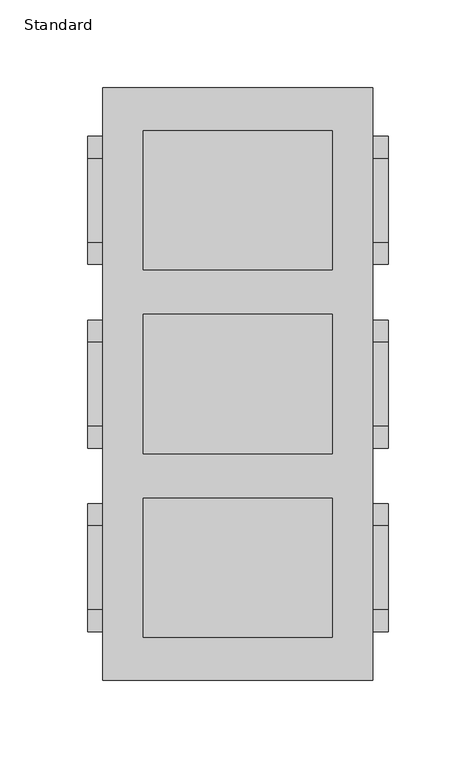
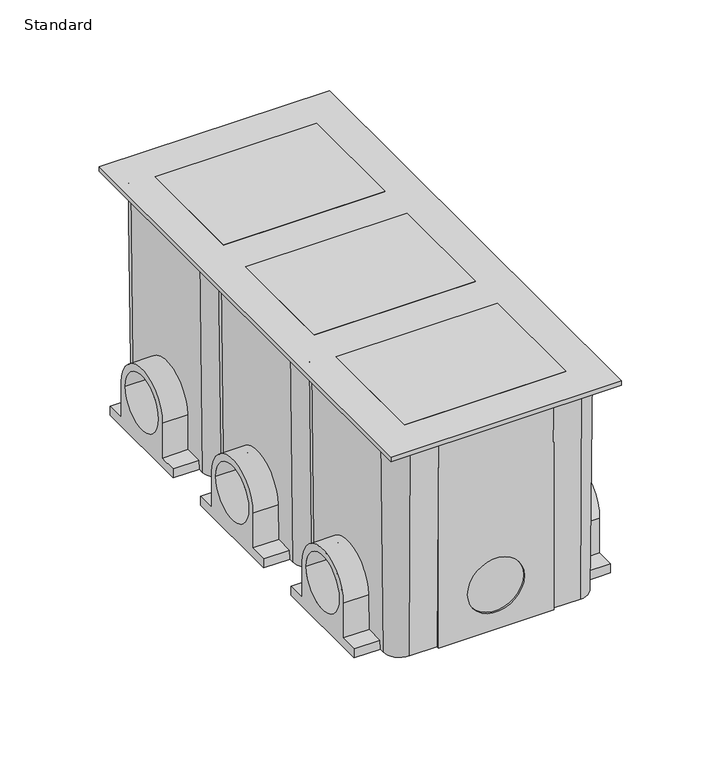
"""IFC4 building model written with IfcOpenShell, lengths in millimetres: proxy geometry, Floor_Box-Modulink-Wiremold-880_Nonmetallic-3_Gang : Standard."""

from ifc_helpers import new_model, si_unit, frame, origin, place, context, project, spatial, polyline, circle_curve, ellipse_curve, outline, extrude, source, transform, mapped, element, save
from ifc_brep_helpers import plane_surface, cylinder_surface, revolved_surface, advanced_brep


def standard_ebe740a5(model_context):
    return source(origin(), model_context, "Body", "SolidModel", [
        extrude(outline(polyline([(53.975, 144.4879), (53.975, 65.1129), (-53.975, 65.1129), (-53.975, 144.4879), (53.975, 144.4879)])), frame((0.0, 0.0, -12.7), z_axis=(0.0, 0.0, 1.0), x_axis=(1.0, 0.0, 0.0)), (0.0, 0.0, 1.0), 12.7),
        extrude(outline(polyline([(53.975, 39.6875), (53.975, -39.6875), (-53.975, -39.6875), (-53.975, 39.6875), (53.975, 39.6875)])), frame((0.0, 0.0, -12.7), z_axis=(0.0, 0.0, 1.0), x_axis=(1.0, 0.0, 0.0)), (0.0, 0.0, 1.0), 12.7),
        extrude(outline(polyline([(53.975, -65.1129), (53.975, -144.4879), (-53.975, -144.4879), (-53.975, -65.1129), (53.975, -65.1129)])), frame((0.0, 0.0, -12.7), z_axis=(0.0, 0.0, 1.0), x_axis=(1.0, 0.0, 0.0)), (0.0, 0.0, 1.0), 12.7),
        extrude(outline(polyline([(-77.0001, 169.0751), (77.0001, 169.0751), (77.0001, -169.0751), (-77.0001, -169.0751), (-77.0001, 169.0751)]), holes=[polyline([(-53.975, 39.6875), (-53.975, -39.6875), (53.975, -39.6875), (53.975, 39.6875), (-53.975, 39.6875)]), polyline([(-53.975, 144.4879), (-53.975, 65.1129), (53.975, 65.1129), (53.975, 144.4879), (-53.975, 144.4879)]), polyline([(-53.975, -65.1129), (-53.975, -144.4879), (53.975, -144.4879), (53.975, -65.1129), (-53.975, -65.1129)])]), frame((0.0, 0.0, -3.175), z_axis=(0.0, 0.0, 1.0), x_axis=(1.0, 0.0, 0.0)), (0.0, 0.0, 1.0), 3.175),
        advanced_brep(
        [(-57.15, -52.4129, -3.175), (-69.85, -65.1129, -3.175), (-69.85, -144.4879, -3.175), (-57.15, -157.1879, -3.175), (-38.608, -157.1879, -3.175), (38.608, -157.1879, -3.175), (57.15, -157.1879, -3.175), (69.85, -144.4879, -3.175), (69.85, -65.1129, -3.175), (57.15, -52.4129, -3.175), (38.608, -52.4129, -3.175), (-38.608, -52.4129, -3.175), (57.15, -54.0004, -155.575), (68.2625, -65.1129, -155.575), (68.2625, -68.2879, -155.575), (85.725, -68.2879, -155.575), (85.725, -141.3129, -155.575), (68.2625, -141.3129, -155.575), (68.2625, -144.4879, -155.575), (57.15, -155.6004, -155.575), (38.608, -155.6004, -155.575), (38.608, -157.1879, -155.575), (-38.608, -157.1879, -155.575), (-38.608, -155.6004, -155.575), (-57.15, -155.6004, -155.575), (-68.2625, -144.4879, -155.575), (-68.2625, -141.3129, -155.575), (-85.725, -141.3129, -155.575), (-85.725, -68.2879, -155.575), (-68.2625, -68.2879, -155.575), (-68.2625, -65.1129, -155.575), (-57.15, -54.0004, -155.575), (-38.608, -54.0004, -155.575), (-38.608, -52.4129, -155.575), (38.608, -52.4129, -155.575), (38.608, -54.0004, -155.575), (19.05, -53.6778729, -124.6124), (-19.05, -53.6778729, -124.6124), (-68.3286458, -68.2879, -149.225), (-68.3286458, -80.9879, -149.225), (-68.5850271, -80.9879, -124.6124), (-68.5850271, -128.6129, -124.6124), (-68.3286458, -128.6129, -149.225), (-68.3286458, -141.3129, -149.225), (-68.5850271, -123.8504, -124.6124), (-68.5850271, -85.7504, -124.6124), (-19.05, -155.9229271, -124.6124), (19.05, -155.9229271, -124.6124), (68.3286458, -141.3129, -149.225), (68.3286458, -128.6129, -149.225), (68.5850271, -128.6129, -124.6124), (68.5850271, -80.9879, -124.6124), (68.3286458, -80.9879, -149.225), (68.3286458, -68.2879, -149.225), (68.5850271, -85.7504, -124.6124), (68.5850271, -123.8504, -124.6124), (-19.05, -157.1879, -124.6124), (19.05, -157.1879, -124.6124), (-19.05, -52.4129, -124.6124), (19.05, -52.4129, -124.6124), (85.725, -128.6129, -124.6124), (85.725, -128.6129, -149.225), (85.725, -141.3129, -149.225), (85.725, -68.2879, -149.225), (85.725, -80.9879, -149.225), (85.725, -80.9879, -124.6124), (85.725, -123.8504, -124.6124), (85.725, -85.7504, -124.6124), (-85.725, -128.6129, -124.6124), (-85.725, -80.9879, -124.6124), (-85.725, -80.9879, -149.225), (-85.725, -68.2879, -149.225), (-85.725, -141.3129, -149.225), (-85.725, -128.6129, -149.225), (-85.725, -123.8504, -124.6124), (-85.725, -85.7504, -124.6124)],
        [
            (0, 1, circle_curve(frame((-57.15, -65.1129, -3.175), z_axis=(0.0, 0.0, 1.0), x_axis=(0.0, 1.0, 0.0)), 12.7)),
            (1, 2),
            (2, 3, circle_curve(frame((-57.15, -144.4879, -3.175), z_axis=(0.0, 0.0, 1.0), x_axis=(-1.0, 0.0, 0.0)), 12.7)),
            (3, 4),
            (4, 5),
            (5, 6),
            (6, 7, circle_curve(frame((57.15, -144.4879, -3.175), z_axis=(0.0, 0.0, 1.0), x_axis=(0.0, -1.0, 0.0)), 12.7)),
            (7, 8),
            (8, 9, circle_curve(frame((57.15, -65.1129, -3.175), z_axis=(0.0, 0.0, 1.0), x_axis=(1.0, 0.0, 0.0)), 12.7)),
            (9, 10),
            (10, 11),
            (11, 0),
            (12, 13, circle_curve(frame((57.15, -65.1129, -155.575), z_axis=(0.0, 0.0, -1.0), x_axis=(1.0, 0.0, 0.0)), 11.1125)),
            (13, 14),
            (14, 15),
            (15, 16),
            (16, 17),
            (17, 18),
            (18, 19, circle_curve(frame((57.15, -144.4879, -155.575), z_axis=(0.0, 0.0, -1.0), x_axis=(0.0, -1.0, 0.0)), 11.1125)),
            (19, 20),
            (20, 21),
            (21, 22),
            (22, 23),
            (23, 24),
            (24, 25, circle_curve(frame((-57.15, -144.4879, -155.575), z_axis=(0.0, 0.0, -1.0), x_axis=(-1.0, 0.0, 0.0)), 11.1125)),
            (25, 26),
            (26, 27),
            (27, 28),
            (28, 29),
            (29, 30),
            (30, 31, circle_curve(frame((-57.15, -65.1129, -155.575), z_axis=(0.0, 0.0, -1.0), x_axis=(0.0, 1.0, 0.0)), 11.1125)),
            (31, 32),
            (32, 33),
            (33, 34),
            (34, 35),
            (35, 12),
            (31, 0),
            (11, 32),
            (9, 12),
            (35, 10),
            (36, 37, ellipse_curve(frame((0.0, -53.6778729, -124.6124), z_axis=(0.0, 0.9999457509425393, -0.010416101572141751), x_axis=(0.0, 0.010416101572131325, 0.9999457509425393)), 19.0510335, 19.05)),
            (37, 36, ellipse_curve(frame((0.0, -53.6778729, -124.6124), z_axis=(0.0, 0.9999457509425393, -0.010416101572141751), x_axis=(0.0, 0.010416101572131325, 0.9999457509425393)), 19.0510335, 19.05)),
            (1, 30),
            (29, 38),
            (38, 39),
            (39, 40),
            (40, 41, ellipse_curve(frame((-68.5850271, -104.8004, -124.6124), z_axis=(0.9999457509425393, 0.0, 0.010416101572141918), x_axis=(0.010416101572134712, 0.0, -0.9999457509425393)), 23.8137919, 23.8125)),
            (41, 42),
            (42, 43),
            (43, 26),
            (25, 2),
            (44, 45, ellipse_curve(frame((-68.5850271, -104.8004, -124.6124), z_axis=(-0.9999457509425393, 0.0, -0.010416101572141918), x_axis=(-0.010416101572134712, 0.0, 0.9999457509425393)), 19.0510335, 19.05)),
            (45, 44, ellipse_curve(frame((-68.5850271, -104.8004, -124.6124), z_axis=(-0.9999457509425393, 0.0, -0.010416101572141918), x_axis=(-0.010416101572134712, 0.0, 0.9999457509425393)), 19.0510335, 19.05)),
            (19, 6),
            (5, 20),
            (46, 47, ellipse_curve(frame((0.0, -155.9229271, -124.6124), z_axis=(0.0, -0.9999457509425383, -0.010416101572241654), x_axis=(0.0, 0.010416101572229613, -0.9999457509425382)), 19.0510335, 19.05)),
            (47, 46, ellipse_curve(frame((0.0, -155.9229271, -124.6124), z_axis=(0.0, -0.9999457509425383, -0.010416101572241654), x_axis=(0.0, 0.010416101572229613, -0.9999457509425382)), 19.0510335, 19.05)),
            (3, 24),
            (23, 4),
            (7, 18),
            (17, 48),
            (48, 49),
            (49, 50),
            (50, 51, ellipse_curve(frame((68.5850271, -104.8004, -124.6124), z_axis=(-0.9999457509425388, 0.0, 0.010416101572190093), x_axis=(0.010416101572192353, 0.0, 0.9999457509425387)), 23.8137919, 23.8125)),
            (51, 52),
            (52, 53),
            (53, 14),
            (13, 8),
            (54, 55, ellipse_curve(frame((68.5850271, -104.8004, -124.6124), z_axis=(0.9999457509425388, 0.0, -0.010416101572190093), x_axis=(-0.010416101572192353, 0.0, -0.9999457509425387)), 19.0510335, 19.05)),
            (55, 54, ellipse_curve(frame((68.5850271, -104.8004, -124.6124), z_axis=(0.9999457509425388, 0.0, -0.010416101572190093), x_axis=(-0.010416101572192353, 0.0, -0.9999457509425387)), 19.0510335, 19.05)),
            (4, 22),
            (21, 5),
            (56, 57, circle_curve(frame((0.0, -157.1879, -124.6124), z_axis=(0.0, 1.0, 0.0), x_axis=(1.0, 0.0, 0.0)), 19.05)),
            (57, 56, circle_curve(frame((0.0, -157.1879, -124.6124), z_axis=(0.0, 1.0, 0.0), x_axis=(1.0, 0.0, 0.0)), 19.05)),
            (57, 47),
            (46, 56),
            (10, 34),
            (33, 11),
            (58, 59, circle_curve(frame((0.0, -52.4129, -124.6124), z_axis=(0.0, -1.0, 0.0), x_axis=(1.0, 0.0, 0.0)), 19.05)),
            (59, 58, circle_curve(frame((0.0, -52.4129, -124.6124), z_axis=(0.0, -1.0, 0.0), x_axis=(1.0, 0.0, 0.0)), 19.05)),
            (58, 37),
            (36, 59),
            (60, 61),
            (61, 62),
            (62, 16),
            (15, 63),
            (63, 64),
            (64, 65),
            (65, 60, circle_curve(frame((85.725, -104.8004, -124.6124), z_axis=(1.0, 0.0, 0.0), x_axis=(0.0, 1.0, 0.0)), 23.8125)),
            (66, 67, circle_curve(frame((85.725, -104.8004, -124.6124), z_axis=(-1.0, 0.0, 0.0), x_axis=(0.0, 1.0, 0.0)), 19.05)),
            (67, 66, circle_curve(frame((85.725, -104.8004, -124.6124), z_axis=(-1.0, 0.0, 0.0), x_axis=(0.0, 1.0, 0.0)), 19.05)),
            (60, 50),
            (49, 61),
            (48, 62),
            (53, 63),
            (52, 64),
            (51, 65),
            (66, 55),
            (54, 67),
            (68, 69, circle_curve(frame((-85.725, -104.8004, -124.6124), z_axis=(-1.0, 0.0, 0.0), x_axis=(0.0, 1.0, 0.0)), 23.8125)),
            (69, 70),
            (70, 71),
            (71, 28),
            (27, 72),
            (72, 73),
            (73, 68),
            (74, 75, circle_curve(frame((-85.725, -104.8004, -124.6124), z_axis=(1.0, 0.0, 0.0), x_axis=(0.0, 1.0, 0.0)), 19.05)),
            (75, 74, circle_curve(frame((-85.725, -104.8004, -124.6124), z_axis=(1.0, 0.0, 0.0), x_axis=(0.0, 1.0, 0.0)), 19.05)),
            (73, 42),
            (41, 68),
            (72, 43),
            (71, 38),
            (70, 39),
            (69, 40),
            (75, 45),
            (44, 74),
        ],
        [
            plane_surface(frame((0.0, -104.8004, -3.175), z_axis=(0.0, 0.0, 1.0), x_axis=(-1.0, 0.0, 0.0))),
            plane_surface(frame((0.0, -104.8004, -155.575), z_axis=(0.0, 0.0, -1.0), x_axis=(-1.0, 0.0, 0.0))),
            plane_surface(frame((0.0, -54.0004, -155.575), z_axis=(0.0, 0.9999457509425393, -0.010416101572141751), x_axis=(-1.0, 0.0, 0.0))),
            plane_surface(frame((-68.2625, -104.8004, -155.575), z_axis=(-0.9999457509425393, 0.0, -0.010416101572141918), x_axis=(0.0, -1.0, 0.0))),
            plane_surface(frame((0.0, -155.6004, -155.575), z_axis=(0.0, -0.9999457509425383, -0.010416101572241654), x_axis=(1.0, 0.0, 0.0))),
            plane_surface(frame((68.2625, -104.8004, -155.575), z_axis=(0.9999457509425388, 0.0, -0.010416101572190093), x_axis=(0.0, 1.0, 0.0))),
            revolved_surface(polyline([(-68.26249999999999, -65.1129, -155.57500000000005), (-69.85, -65.1129, -3.1749999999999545)]), (-57.15, -65.1129, -1222.375), (0.0, 0.0, 1.0)),
            revolved_surface(polyline([(-57.15, -155.6004, -155.57500000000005), (-57.15, -157.1879, -3.1749999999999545)]), (-57.15, -144.4879, -1222.375), (0.0, 0.0, 1.0)),
            revolved_surface(polyline([(68.26249999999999, -144.4879, -155.57500000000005), (69.85, -144.4879, -3.1749999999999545)]), (57.15, -144.4879, -1222.375), (0.0, 0.0, 1.0)),
            revolved_surface(polyline([(57.15, -54.0004, -155.57500000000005), (57.15, -52.4129, -3.1749999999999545)]), (57.15, -65.1129, -1222.375), (0.0, 0.0, 1.0)),
            plane_surface(frame((19.05, -157.1879, -124.6124), z_axis=(0.0, -1.0, 0.0), x_axis=(0.0, 0.0, -1.0))),
            revolved_surface(polyline([(19.05, -155.72448960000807, -124.6124), (19.05, -157.1879, -124.6124)]), (0.0, -155.6004, -124.6124), (0.0, 1.0, 0.0)),
            plane_surface(frame((-38.608, -157.1879, -3.175), z_axis=(-1.0, 0.0, 0.0), x_axis=(0.0, 1.0, 0.0))),
            plane_surface(frame((38.608, -157.1879, -155.575), z_axis=(1.0, 0.0, 0.0), x_axis=(0.0, 1.0, 0.0))),
            plane_surface(frame((19.05, -52.4129, -124.6124), z_axis=(0.0, 1.0, 0.0), x_axis=(0.0, 0.0, 1.0))),
            revolved_surface(polyline([(19.05, -52.4129, -124.6124), (19.05, -53.876310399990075, -124.6124)]), (0.0, -52.4129, -124.6124), (0.0, 1.0, 0.0)),
            plane_surface(frame((-38.608, -54.0004, -3.175), z_axis=(-1.0, 0.0, 0.0), x_axis=(0.0, 1.0, 0.0))),
            plane_surface(frame((38.608, -54.0004, -155.575), z_axis=(1.0, 0.0, 0.0), x_axis=(0.0, 1.0, 0.0))),
            plane_surface(frame((85.725, -128.6129, -149.225), z_axis=(1.0, 0.0, 0.0), x_axis=(0.0, 1.0449157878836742e-12, -1.0))),
            plane_surface(frame((85.725, -128.6129, -124.6124), z_axis=(0.0, -1.0, -1.0449157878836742e-12), x_axis=(-1.0, 0.0, 0.0))),
            plane_surface(frame((85.725, -128.6129, -149.225), z_axis=(0.0, 0.0, 1.0), x_axis=(-1.0, 0.0, 0.0))),
            plane_surface(frame((85.725, -141.3129, -149.225), z_axis=(0.0, -1.0, 0.0), x_axis=(-1.0, 0.0, 0.0))),
            plane_surface(frame((85.725, -68.2879, -155.575), z_axis=(0.0, 1.0, 0.0), x_axis=(-1.0, 0.0, 0.0))),
            plane_surface(frame((85.725, -68.2879, -149.225), z_axis=(0.0, 0.0, 1.0), x_axis=(-1.0, 0.0, 0.0))),
            plane_surface(frame((85.725, -80.9879, -149.225), z_axis=(0.0, 1.0, 0.0), x_axis=(-1.0, 0.0, 0.0))),
            cylinder_surface(frame((57.15, -104.8004, -124.6124), z_axis=(1.0, 0.0, 0.0), x_axis=(0.0, 1.0, 0.0)), 23.8125),
            revolved_surface(polyline([(68.38658960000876, -85.7504, -124.6124), (85.725, -85.7504, -124.6124)]), (0.0, -104.8004, -124.6124), (-1.0, 0.0, 0.0)),
            plane_surface(frame((-85.725, -128.6129, -149.225), z_axis=(-1.0, 0.0, 0.0), x_axis=(0.0, -1.0449157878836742e-12, 1.0))),
            plane_surface(frame((-57.15, -128.6129, -124.6124), z_axis=(0.0, -1.0, -1.0449157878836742e-12), x_axis=(-1.0, 0.0, 0.0))),
            plane_surface(frame((-57.15, -128.6129, -149.225), z_axis=(0.0, 0.0, 1.0), x_axis=(-1.0, 0.0, 0.0))),
            plane_surface(frame((-57.15, -141.3129, -149.225), z_axis=(0.0, -1.0, 0.0), x_axis=(-1.0, 0.0, 0.0))),
            plane_surface(frame((-57.15, -68.2879, -155.575), z_axis=(0.0, 1.0, 0.0), x_axis=(-1.0, 0.0, 0.0))),
            plane_surface(frame((-57.15, -68.2879, -149.225), z_axis=(0.0, 0.0, 1.0), x_axis=(-1.0, 0.0, 0.0))),
            plane_surface(frame((-57.15, -80.9879, -149.225), z_axis=(0.0, 1.0, 0.0), x_axis=(-1.0, 0.0, 0.0))),
            cylinder_surface(frame((-85.725, -104.8004, -124.6124), z_axis=(1.0, 0.0, 0.0), x_axis=(0.0, 1.0, 0.0)), 23.8125),
            revolved_surface(polyline([(-85.725, -85.7504, -124.6124), (-68.38658960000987, -85.7504, -124.6124)]), (0.0, -104.8004, -124.6124), (-1.0, 0.0, 0.0)),
        ],
        [
            (0, [[1, 2, 3, 4, 5, 6, 7, 8, 9, 10, 11, 12]]),
            (1, [[13, 14, 15, 16, 17, 18, 19, 20, 21, 22, 23, 24, 25, 26, 27, 28, 29, 30, 31, 32, 33, 34, 35, 36]]),
            (2, [[37, -12, 38, -32]]),
            (2, [[39, -36, 40, -10]]),
            (2, [[41, 42]]),
            (3, [[-2, 43, -30, 44, 45, 46, 47, 48, 49, 50, -26, 51]]),
            (3, [[52, 53]]),
            (4, [[54, -6, 55, -20]]),
            (4, [[56, 57]]),
            (4, [[58, -24, 59, -4]]),
            (5, [[-8, 60, -18, 61, 62, 63, 64, 65, 66, 67, -14, 68]]),
            (5, [[69, 70]]),
            (6, [[-1, -37, -31, -43]]),
            (7, [[-3, -51, -25, -58]]),
            (8, [[-7, -54, -19, -60]]),
            (9, [[-9, -68, -13, -39]]),
            (10, [[71, -22, 72, -5], [73, 74]]),
            (11, [[-74, 75, -56, 76]]),
            (11, [[-73, -76, -57, -75]]),
            (12, [[-71, -59, -23]]),
            (13, [[-72, -21, -55]]),
            (14, [[77, -34, 78, -11], [79, 80]]),
            (15, [[-79, 81, -41, 82]]),
            (15, [[-80, -82, -42, -81]]),
            (16, [[-78, -33, -38]]),
            (17, [[-77, -40, -35]]),
            (18, [[83, 84, 85, -16, 86, 87, 88, 89], [90, 91]]),
            (19, [[-83, 92, -63, 93]]),
            (20, [[-84, -93, -62, 94]]),
            (21, [[-85, -94, -61, -17]]),
            (22, [[-86, -15, -67, 95]]),
            (23, [[-87, -95, -66, 96]]),
            (24, [[-88, -96, -65, 97]]),
            (25, [[-89, -97, -64, -92]]),
            (26, [[-90, 98, -69, 99]]),
            (26, [[-91, -99, -70, -98]]),
            (27, [[100, 101, 102, 103, -28, 104, 105, 106], [107, 108]]),
            (28, [[-106, 109, -48, 110]]),
            (29, [[-105, 111, -49, -109]]),
            (30, [[-104, -27, -50, -111]]),
            (31, [[-103, 112, -44, -29]]),
            (32, [[-102, 113, -45, -112]]),
            (33, [[-101, 114, -46, -113]]),
            (34, [[-100, -110, -47, -114]]),
            (35, [[-108, 115, -52, 116]]),
            (35, [[-107, -116, -53, -115]]),
        ],
    ),
        advanced_brep(
        [(-57.15, 52.3875, -3.175), (-69.85, 39.6875, -3.175), (-69.85, -39.6875, -3.175), (-57.15, -52.3875, -3.175), (-38.608, -52.3875, -3.175), (38.608, -52.3875, -3.175), (57.15, -52.3875, -3.175), (69.85, -39.6875, -3.175), (69.85, 39.6875, -3.175), (57.15, 52.3875, -3.175), (38.608, 52.3875, -3.175), (-38.608, 52.3875, -3.175), (57.15, 50.8, -155.575), (68.2625, 39.6875, -155.575), (68.2625, 36.5125, -155.575), (85.725, 36.5125, -155.575), (85.725, -36.5125, -155.575), (68.2625, -36.5125, -155.575), (68.2625, -39.6875, -155.575), (57.15, -50.8, -155.575), (38.608, -50.8, -155.575), (38.608, -52.3875, -155.575), (-38.608, -52.3875, -155.575), (-38.608, -50.8, -155.575), (-57.15, -50.8, -155.575), (-68.2625, -39.6875, -155.575), (-68.2625, -36.5125, -155.575), (-85.725, -36.5125, -155.575), (-85.725, 36.5125, -155.575), (-68.2625, 36.5125, -155.575), (-68.2625, 39.6875, -155.575), (-57.15, 50.8, -155.575), (-38.608, 50.8, -155.575), (-38.608, 52.3875, -155.575), (38.608, 52.3875, -155.575), (38.608, 50.8, -155.575), (19.05, 51.1225271, -124.6124), (-19.05, 51.1225271, -124.6124), (-68.3286458, 36.5125, -149.225), (-68.3286458, 23.8125, -149.225), (-68.5850271, 23.8125, -124.6124), (-68.5850271, -23.8125, -124.6124), (-68.3286458, -23.8125, -149.225), (-68.3286458, -36.5125, -149.225), (-68.5850271, -19.05, -124.6124), (-68.5850271, 19.05, -124.6124), (-19.05, -51.1225271, -124.6124), (19.05, -51.1225271, -124.6124), (68.3286458, -36.5125, -149.225), (68.3286458, -23.8125, -149.225), (68.5850271, -23.8125, -124.6124), (68.5850271, 23.8125, -124.6124), (68.3286458, 23.8125, -149.225), (68.3286458, 36.5125, -149.225), (68.5850271, 19.05, -124.6124), (68.5850271, -19.05, -124.6124), (-85.725, -23.8125, -124.6124), (-85.725, 23.8125, -124.6124), (-85.725, 23.8125, -149.225), (-85.725, 36.5125, -149.225), (-85.725, -36.5125, -149.225), (-85.725, -23.8125, -149.225), (-85.725, -19.05, -124.6124), (-85.725, 19.05, -124.6124), (85.725, -23.8125, -124.6124), (85.725, -23.8125, -149.225), (85.725, -36.5125, -149.225), (85.725, 36.5125, -149.225), (85.725, 23.8125, -149.225), (85.725, 23.8125, -124.6124), (85.725, -19.05, -124.6124), (85.725, 19.05, -124.6124), (-19.05, -52.3875, -124.6124), (19.05, -52.3875, -124.6124), (-19.05, 52.3875, -124.6124), (19.05, 52.3875, -124.6124)],
        [
            (0, 1, circle_curve(frame((-57.15, 39.6875, -3.175), z_axis=(0.0, 0.0, 1.0), x_axis=(0.0, 1.0, 0.0)), 12.7)),
            (1, 2),
            (2, 3, circle_curve(frame((-57.15, -39.6875, -3.175), z_axis=(0.0, 0.0, 1.0), x_axis=(-1.0, 0.0, 0.0)), 12.7)),
            (3, 4),
            (4, 5),
            (5, 6),
            (6, 7, circle_curve(frame((57.15, -39.6875, -3.175), z_axis=(0.0, 0.0, 1.0), x_axis=(0.0, -1.0, 0.0)), 12.7)),
            (7, 8),
            (8, 9, circle_curve(frame((57.15, 39.6875, -3.175), z_axis=(0.0, 0.0, 1.0), x_axis=(1.0, 0.0, 0.0)), 12.7)),
            (9, 10),
            (10, 11),
            (11, 0),
            (12, 13, circle_curve(frame((57.15, 39.6875, -155.575), z_axis=(0.0, 0.0, -1.0), x_axis=(1.0, 0.0, 0.0)), 11.1125)),
            (13, 14),
            (14, 15),
            (15, 16),
            (16, 17),
            (17, 18),
            (18, 19, circle_curve(frame((57.15, -39.6875, -155.575), z_axis=(0.0, 0.0, -1.0), x_axis=(0.0, -1.0, 0.0)), 11.1125)),
            (19, 20),
            (20, 21),
            (21, 22),
            (22, 23),
            (23, 24),
            (24, 25, circle_curve(frame((-57.15, -39.6875, -155.575), z_axis=(0.0, 0.0, -1.0), x_axis=(-1.0, 0.0, 0.0)), 11.1125)),
            (25, 26),
            (26, 27),
            (27, 28),
            (28, 29),
            (29, 30),
            (30, 31, circle_curve(frame((-57.15, 39.6875, -155.575), z_axis=(0.0, 0.0, -1.0), x_axis=(0.0, 1.0, 0.0)), 11.1125)),
            (31, 32),
            (32, 33),
            (33, 34),
            (34, 35),
            (35, 12),
            (31, 0),
            (11, 32),
            (9, 12),
            (35, 10),
            (36, 37, ellipse_curve(frame((0.0, 51.1225271, -124.6124), z_axis=(0.0, 0.9999457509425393, -0.010416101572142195), x_axis=(0.0, 0.010416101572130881, 0.9999457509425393)), 19.0510335, 19.05)),
            (37, 36, ellipse_curve(frame((0.0, 51.1225271, -124.6124), z_axis=(0.0, 0.9999457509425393, -0.010416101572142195), x_axis=(0.0, 0.010416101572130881, 0.9999457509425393)), 19.0510335, 19.05)),
            (1, 30),
            (29, 38),
            (38, 39),
            (39, 40),
            (40, 41, ellipse_curve(frame((-68.5850271, 0.0, -124.6124), z_axis=(0.9999457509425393, 0.0, 0.010416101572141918), x_axis=(0.010416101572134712, 0.0, -0.9999457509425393)), 23.8137919, 23.8125)),
            (41, 42),
            (42, 43),
            (43, 26),
            (25, 2),
            (44, 45, ellipse_curve(frame((-68.5850271, 0.0, -124.6124), z_axis=(-0.9999457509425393, 0.0, -0.010416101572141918), x_axis=(-0.010416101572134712, 0.0, 0.9999457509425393)), 19.0510335, 19.05)),
            (45, 44, ellipse_curve(frame((-68.5850271, 0.0, -124.6124), z_axis=(-0.9999457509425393, 0.0, -0.010416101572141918), x_axis=(-0.010416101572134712, 0.0, 0.9999457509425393)), 19.0510335, 19.05)),
            (19, 6),
            (5, 20),
            (46, 47, ellipse_curve(frame((0.0, -51.1225271, -124.6124), z_axis=(0.0, -0.9999457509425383, -0.010416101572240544), x_axis=(0.0, 0.010416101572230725, -0.9999457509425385)), 19.0510335, 19.05)),
            (47, 46, ellipse_curve(frame((0.0, -51.1225271, -124.6124), z_axis=(0.0, -0.9999457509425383, -0.010416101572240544), x_axis=(0.0, 0.010416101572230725, -0.9999457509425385)), 19.0510335, 19.05)),
            (3, 24),
            (23, 4),
            (7, 18),
            (17, 48),
            (48, 49),
            (49, 50),
            (50, 51, ellipse_curve(frame((68.5850271, 0.0, -124.6124), z_axis=(-0.9999457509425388, 0.0, 0.010416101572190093), x_axis=(0.010416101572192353, 0.0, 0.9999457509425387)), 23.8137919, 23.8125)),
            (51, 52),
            (52, 53),
            (53, 14),
            (13, 8),
            (54, 55, ellipse_curve(frame((68.5850271, 0.0, -124.6124), z_axis=(0.9999457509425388, 0.0, -0.010416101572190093), x_axis=(-0.010416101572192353, 0.0, -0.9999457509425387)), 19.0510335, 19.05)),
            (55, 54, ellipse_curve(frame((68.5850271, 0.0, -124.6124), z_axis=(0.9999457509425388, 0.0, -0.010416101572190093), x_axis=(-0.010416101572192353, 0.0, -0.9999457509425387)), 19.0510335, 19.05)),
            (56, 57, circle_curve(frame((-85.725, 0.0, -124.6124), z_axis=(-1.0, 0.0, 0.0), x_axis=(0.0, 1.0, 0.0)), 23.8125)),
            (57, 58),
            (58, 59),
            (59, 28),
            (27, 60),
            (60, 61),
            (61, 56),
            (62, 63, circle_curve(frame((-85.725, 0.0, -124.6124), z_axis=(1.0, 0.0, 0.0), x_axis=(0.0, 1.0, 0.0)), 19.05)),
            (63, 62, circle_curve(frame((-85.725, 0.0, -124.6124), z_axis=(1.0, 0.0, 0.0), x_axis=(0.0, 1.0, 0.0)), 19.05)),
            (61, 42),
            (41, 56),
            (60, 43),
            (59, 38),
            (58, 39),
            (57, 40),
            (63, 45),
            (44, 62),
            (64, 65),
            (65, 66),
            (66, 16),
            (15, 67),
            (67, 68),
            (68, 69),
            (69, 64, circle_curve(frame((85.725, 0.0, -124.6124), z_axis=(1.0, 0.0, 0.0), x_axis=(0.0, 1.0, 0.0)), 23.8125)),
            (70, 71, circle_curve(frame((85.725, 0.0, -124.6124), z_axis=(-1.0, 0.0, 0.0), x_axis=(0.0, 1.0, 0.0)), 19.05)),
            (71, 70, circle_curve(frame((85.725, 0.0, -124.6124), z_axis=(-1.0, 0.0, 0.0), x_axis=(0.0, 1.0, 0.0)), 19.05)),
            (64, 50),
            (49, 65),
            (48, 66),
            (53, 67),
            (52, 68),
            (51, 69),
            (70, 55),
            (54, 71),
            (4, 22),
            (21, 5),
            (72, 73, circle_curve(frame((0.0, -52.3875, -124.6124), z_axis=(0.0, 1.0, 0.0), x_axis=(1.0, 0.0, 0.0)), 19.05)),
            (73, 72, circle_curve(frame((0.0, -52.3875, -124.6124), z_axis=(0.0, 1.0, 0.0), x_axis=(1.0, 0.0, 0.0)), 19.05)),
            (73, 47),
            (46, 72),
            (10, 34),
            (33, 11),
            (74, 75, circle_curve(frame((0.0, 52.3875, -124.6124), z_axis=(0.0, -1.0, 0.0), x_axis=(1.0, 0.0, 0.0)), 19.05)),
            (75, 74, circle_curve(frame((0.0, 52.3875, -124.6124), z_axis=(0.0, -1.0, 0.0), x_axis=(1.0, 0.0, 0.0)), 19.05)),
            (74, 37),
            (36, 75),
        ],
        [
            plane_surface(frame((0.0, 0.0, -3.175), z_axis=(0.0, 0.0, 1.0), x_axis=(-1.0, 0.0, 0.0))),
            plane_surface(frame((0.0, 0.0, -155.575), z_axis=(0.0, 0.0, -1.0), x_axis=(-1.0, 0.0, 0.0))),
            plane_surface(frame((0.0, 50.8, -155.575), z_axis=(0.0, 0.9999457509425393, -0.010416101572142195), x_axis=(-1.0, 0.0, 0.0))),
            plane_surface(frame((-68.2625, 0.0, -155.575), z_axis=(-0.9999457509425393, 0.0, -0.010416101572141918), x_axis=(0.0, -1.0, 0.0))),
            plane_surface(frame((0.0, -50.8, -155.575), z_axis=(0.0, -0.9999457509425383, -0.010416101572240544), x_axis=(1.0, 0.0, 0.0))),
            plane_surface(frame((68.2625, 0.0, -155.575), z_axis=(0.9999457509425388, 0.0, -0.010416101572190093), x_axis=(0.0, 1.0, 0.0))),
            revolved_surface(polyline([(-68.26249999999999, 39.6875, -155.57500000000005), (-69.85, 39.6875, -3.1749999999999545)]), (-57.15, 39.6875, -1222.375), (0.0, 0.0, 1.0)),
            revolved_surface(polyline([(-57.15, -50.8, -155.57500000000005), (-57.15, -52.3875, -3.1749999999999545)]), (-57.15, -39.6875, -1222.375), (0.0, 0.0, 1.0)),
            revolved_surface(polyline([(68.26249999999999, -39.6875, -155.57500000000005), (69.85, -39.6875, -3.1749999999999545)]), (57.15, -39.6875, -1222.375), (0.0, 0.0, 1.0)),
            revolved_surface(polyline([(57.15, 50.8, -155.57500000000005), (57.15, 52.3875, -3.1749999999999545)]), (57.15, 39.6875, -1222.375), (0.0, 0.0, 1.0)),
            plane_surface(frame((-85.725, -23.8125, -149.225), z_axis=(-1.0, 0.0, 0.0), x_axis=(0.0, -1.039416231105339e-12, 1.0))),
            plane_surface(frame((-57.15, -23.8125, -124.6124), z_axis=(0.0, -1.0, -1.039416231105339e-12), x_axis=(-1.0, 0.0, 0.0))),
            plane_surface(frame((-57.15, -23.8125, -149.225), z_axis=(0.0, 0.0, 1.0), x_axis=(-1.0, 0.0, 0.0))),
            plane_surface(frame((-57.15, -36.5125, -149.225), z_axis=(0.0, -1.0, 0.0), x_axis=(-1.0, 0.0, 0.0))),
            plane_surface(frame((-57.15, 36.5125, -155.575), z_axis=(0.0, 1.0, 0.0), x_axis=(-1.0, 0.0, 0.0))),
            plane_surface(frame((-57.15, 36.5125, -149.225), z_axis=(0.0, 0.0, 1.0), x_axis=(-1.0, 0.0, 0.0))),
            plane_surface(frame((-57.15, 23.8125, -149.225), z_axis=(0.0, 1.0, 0.0), x_axis=(-1.0, 0.0, 0.0))),
            cylinder_surface(frame((-85.725, 0.0, -124.6124), z_axis=(1.0, 0.0, 0.0), x_axis=(0.0, 1.0, 0.0)), 23.8125),
            revolved_surface(polyline([(-85.725, 19.05, -124.6124), (-68.38658960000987, 19.05, -124.6124)]), (0.0, 0.0, -124.6124), (-1.0, 0.0, 0.0)),
            plane_surface(frame((85.725, -23.8125, -149.225), z_axis=(1.0, 0.0, 0.0), x_axis=(0.0, 1.039416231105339e-12, -1.0))),
            plane_surface(frame((85.725, -23.8125, -124.6124), z_axis=(0.0, -1.0, -1.039416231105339e-12), x_axis=(-1.0, 0.0, 0.0))),
            plane_surface(frame((85.725, -23.8125, -149.225), z_axis=(0.0, 0.0, 1.0), x_axis=(-1.0, 0.0, 0.0))),
            plane_surface(frame((85.725, -36.5125, -149.225), z_axis=(0.0, -1.0, 0.0), x_axis=(-1.0, 0.0, 0.0))),
            plane_surface(frame((85.725, 36.5125, -155.575), z_axis=(0.0, 1.0, 0.0), x_axis=(-1.0, 0.0, 0.0))),
            plane_surface(frame((85.725, 36.5125, -149.225), z_axis=(0.0, 0.0, 1.0), x_axis=(-1.0, 0.0, 0.0))),
            plane_surface(frame((85.725, 23.8125, -149.225), z_axis=(0.0, 1.0, 0.0), x_axis=(-1.0, 0.0, 0.0))),
            cylinder_surface(frame((57.15, 0.0, -124.6124), z_axis=(1.0, 0.0, 0.0), x_axis=(0.0, 1.0, 0.0)), 23.8125),
            revolved_surface(polyline([(68.38658960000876, 19.05, -124.6124), (85.725, 19.05, -124.6124)]), (0.0, 0.0, -124.6124), (-1.0, 0.0, 0.0)),
            plane_surface(frame((19.05, -52.3875, -124.6124), z_axis=(0.0, -1.0, 0.0), x_axis=(0.0, 0.0, -1.0))),
            revolved_surface(polyline([(19.05, -50.92408960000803, -124.6124), (19.05, -52.3875, -124.6124)]), (0.0, -50.8, -124.6124), (0.0, 1.0, 0.0)),
            plane_surface(frame((-38.608, -52.3875, -3.175), z_axis=(-1.0, 0.0, 0.0), x_axis=(0.0, 1.0, 0.0))),
            plane_surface(frame((38.608, -52.3875, -155.575), z_axis=(1.0, 0.0, 0.0), x_axis=(0.0, 1.0, 0.0))),
            plane_surface(frame((19.05, 52.3875, -124.6124), z_axis=(0.0, 1.0, 0.0), x_axis=(0.0, 0.0, 1.0))),
            revolved_surface(polyline([(19.05, 52.3875, -124.6124), (19.05, 50.92408960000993, -124.6124)]), (0.0, 52.3875, -124.6124), (0.0, 1.0, 0.0)),
            plane_surface(frame((-38.608, 50.8, -3.175), z_axis=(-1.0, 0.0, 0.0), x_axis=(0.0, 1.0, 0.0))),
            plane_surface(frame((38.608, 50.8, -155.575), z_axis=(1.0, 0.0, 0.0), x_axis=(0.0, 1.0, 0.0))),
        ],
        [
            (0, [[1, 2, 3, 4, 5, 6, 7, 8, 9, 10, 11, 12]]),
            (1, [[13, 14, 15, 16, 17, 18, 19, 20, 21, 22, 23, 24, 25, 26, 27, 28, 29, 30, 31, 32, 33, 34, 35, 36]]),
            (2, [[37, -12, 38, -32]]),
            (2, [[39, -36, 40, -10]]),
            (2, [[41, 42]]),
            (3, [[-2, 43, -30, 44, 45, 46, 47, 48, 49, 50, -26, 51]]),
            (3, [[52, 53]]),
            (4, [[54, -6, 55, -20]]),
            (4, [[56, 57]]),
            (4, [[58, -24, 59, -4]]),
            (5, [[-8, 60, -18, 61, 62, 63, 64, 65, 66, 67, -14, 68]]),
            (5, [[69, 70]]),
            (6, [[-1, -37, -31, -43]]),
            (7, [[-3, -51, -25, -58]]),
            (8, [[-7, -54, -19, -60]]),
            (9, [[-9, -68, -13, -39]]),
            (10, [[71, 72, 73, 74, -28, 75, 76, 77], [78, 79]]),
            (11, [[-77, 80, -48, 81]]),
            (12, [[-76, 82, -49, -80]]),
            (13, [[-75, -27, -50, -82]]),
            (14, [[-74, 83, -44, -29]]),
            (15, [[-73, 84, -45, -83]]),
            (16, [[-72, 85, -46, -84]]),
            (17, [[-71, -81, -47, -85]]),
            (18, [[-79, 86, -52, 87]]),
            (18, [[-78, -87, -53, -86]]),
            (19, [[88, 89, 90, -16, 91, 92, 93, 94], [95, 96]]),
            (20, [[-88, 97, -63, 98]]),
            (21, [[-89, -98, -62, 99]]),
            (22, [[-90, -99, -61, -17]]),
            (23, [[-91, -15, -67, 100]]),
            (24, [[-92, -100, -66, 101]]),
            (25, [[-93, -101, -65, 102]]),
            (26, [[-94, -102, -64, -97]]),
            (27, [[-95, 103, -69, 104]]),
            (27, [[-96, -104, -70, -103]]),
            (28, [[105, -22, 106, -5], [107, 108]]),
            (29, [[-108, 109, -56, 110]]),
            (29, [[-107, -110, -57, -109]]),
            (30, [[-105, -59, -23]]),
            (31, [[-106, -21, -55]]),
            (32, [[111, -34, 112, -11], [113, 114]]),
            (33, [[-113, 115, -41, 116]]),
            (33, [[-114, -116, -42, -115]]),
            (34, [[-112, -33, -38]]),
            (35, [[-111, -40, -35]]),
        ],
    ),
        advanced_brep(
        [(-57.15, 157.1879, -3.175), (-69.85, 144.4879, -3.175), (-69.85, 65.1129, -3.175), (-57.15, 52.4129, -3.175), (-38.608, 52.4129, -3.175), (38.608, 52.4129, -3.175), (57.15, 52.4129, -3.175), (69.85, 65.1129, -3.175), (69.85, 144.4879, -3.175), (57.15, 157.1879, -3.175), (38.608, 157.1879, -3.175), (-38.608, 157.1879, -3.175), (57.15, 155.6004, -155.575), (68.2625, 144.4879, -155.575), (68.2625, 141.3129, -155.575), (85.725, 141.3129, -155.575), (85.725, 68.2879, -155.575), (68.2625, 68.2879, -155.575), (68.2625, 65.1129, -155.575), (57.15, 54.0004, -155.575), (38.608, 54.0004, -155.575), (38.608, 52.4129, -155.575), (-38.608, 52.4129, -155.575), (-38.608, 54.0004, -155.575), (-57.15, 54.0004, -155.575), (-68.2625, 65.1129, -155.575), (-68.2625, 68.2879, -155.575), (-85.725, 68.2879, -155.575), (-85.725, 141.3129, -155.575), (-68.2625, 141.3129, -155.575), (-68.2625, 144.4879, -155.575), (-57.15, 155.6004, -155.575), (-38.608, 155.6004, -155.575), (-38.608, 157.1879, -155.575), (38.608, 157.1879, -155.575), (38.608, 155.6004, -155.575), (19.05, 155.9229271, -124.6124), (-19.05, 155.9229271, -124.6124), (-68.3286458, 141.3129, -149.225), (-68.3286458, 128.6129, -149.225), (-68.5850271, 128.6129, -124.6124), (-68.5850271, 80.9879, -124.6124), (-68.3286458, 80.9879, -149.225), (-68.3286458, 68.2879, -149.225), (-68.5850271, 85.7504, -124.6124), (-68.5850271, 123.8504, -124.6124), (-19.05, 53.6778729, -124.6124), (19.05, 53.6778729, -124.6124), (68.3286458, 68.2879, -149.225), (68.3286458, 80.9879, -149.225), (68.5850271, 80.9879, -124.6124), (68.5850271, 128.6129, -124.6124), (68.3286458, 128.6129, -149.225), (68.3286458, 141.3129, -149.225), (68.5850271, 123.8504, -124.6124), (68.5850271, 85.7504, -124.6124), (-19.05, 52.4129, -124.6124), (19.05, 52.4129, -124.6124), (-19.05, 157.1879, -124.6124), (19.05, 157.1879, -124.6124), (85.725, 80.9879, -124.6124), (85.725, 80.9879, -149.225), (85.725, 68.2879, -149.225), (85.725, 141.3129, -149.225), (85.725, 128.6129, -149.225), (85.725, 128.6129, -124.6124), (85.725, 85.7504, -124.6124), (85.725, 123.8504, -124.6124), (-85.725, 80.9879, -124.6124), (-85.725, 128.6129, -124.6124), (-85.725, 128.6129, -149.225), (-85.725, 141.3129, -149.225), (-85.725, 68.2879, -149.225), (-85.725, 80.9879, -149.225), (-85.725, 85.7504, -124.6124), (-85.725, 123.8504, -124.6124)],
        [
            (0, 1, circle_curve(frame((-57.15, 144.4879, -3.175), z_axis=(0.0, 0.0, 1.0), x_axis=(0.0, 1.0, 0.0)), 12.7)),
            (1, 2),
            (2, 3, circle_curve(frame((-57.15, 65.1129, -3.175), z_axis=(0.0, 0.0, 1.0), x_axis=(-1.0, 0.0, 0.0)), 12.7)),
            (3, 4),
            (4, 5),
            (5, 6),
            (6, 7, circle_curve(frame((57.15, 65.1129, -3.175), z_axis=(0.0, 0.0, 1.0), x_axis=(0.0, -1.0, 0.0)), 12.7)),
            (7, 8),
            (8, 9, circle_curve(frame((57.15, 144.4879, -3.175), z_axis=(0.0, 0.0, 1.0), x_axis=(1.0, 0.0, 0.0)), 12.7)),
            (9, 10),
            (10, 11),
            (11, 0),
            (12, 13, circle_curve(frame((57.15, 144.4879, -155.575), z_axis=(0.0, 0.0, -1.0), x_axis=(1.0, 0.0, 0.0)), 11.1125)),
            (13, 14),
            (14, 15),
            (15, 16),
            (16, 17),
            (17, 18),
            (18, 19, circle_curve(frame((57.15, 65.1129, -155.575), z_axis=(0.0, 0.0, -1.0), x_axis=(0.0, -1.0, 0.0)), 11.1125)),
            (19, 20),
            (20, 21),
            (21, 22),
            (22, 23),
            (23, 24),
            (24, 25, circle_curve(frame((-57.15, 65.1129, -155.575), z_axis=(0.0, 0.0, -1.0), x_axis=(-1.0, 0.0, 0.0)), 11.1125)),
            (25, 26),
            (26, 27),
            (27, 28),
            (28, 29),
            (29, 30),
            (30, 31, circle_curve(frame((-57.15, 144.4879, -155.575), z_axis=(0.0, 0.0, -1.0), x_axis=(0.0, 1.0, 0.0)), 11.1125)),
            (31, 32),
            (32, 33),
            (33, 34),
            (34, 35),
            (35, 12),
            (31, 0),
            (11, 32),
            (9, 12),
            (35, 10),
            (36, 37, ellipse_curve(frame((0.0, 155.9229271, -124.6124), z_axis=(0.0, 0.9999457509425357, -0.010416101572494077), x_axis=(0.0, 0.010416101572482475, 0.9999457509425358)), 19.0510335, 19.05)),
            (37, 36, ellipse_curve(frame((0.0, 155.9229271, -124.6124), z_axis=(0.0, 0.9999457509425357, -0.010416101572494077), x_axis=(0.0, 0.010416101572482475, 0.9999457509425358)), 19.0510335, 19.05)),
            (1, 30),
            (29, 38),
            (38, 39),
            (39, 40),
            (40, 41, ellipse_curve(frame((-68.5850271, 104.8004, -124.6124), z_axis=(0.9999457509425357, 0.0, 0.010416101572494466), x_axis=(0.01041610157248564, 0.0, -0.9999457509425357)), 23.8137919, 23.8125)),
            (41, 42),
            (42, 43),
            (43, 26),
            (25, 2),
            (44, 45, ellipse_curve(frame((-68.5850271, 104.8004, -124.6124), z_axis=(-0.9999457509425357, 0.0, -0.010416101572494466), x_axis=(-0.01041610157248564, 0.0, 0.9999457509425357)), 19.0510335, 19.05)),
            (45, 44, ellipse_curve(frame((-68.5850271, 104.8004, -124.6124), z_axis=(-0.9999457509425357, 0.0, -0.010416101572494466), x_axis=(-0.01041610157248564, 0.0, 0.9999457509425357)), 19.0510335, 19.05)),
            (19, 6),
            (5, 20),
            (46, 47, ellipse_curve(frame((0.0, 53.6778729, -124.6124), z_axis=(0.0, -0.9999457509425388, -0.010416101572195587), x_axis=(0.0, 0.010416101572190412, -0.9999457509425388)), 19.0510335, 19.05)),
            (47, 46, ellipse_curve(frame((0.0, 53.6778729, -124.6124), z_axis=(0.0, -0.9999457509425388, -0.010416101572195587), x_axis=(0.0, 0.010416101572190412, -0.9999457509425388)), 19.0510335, 19.05)),
            (3, 24),
            (23, 4),
            (7, 18),
            (17, 48),
            (48, 49),
            (49, 50),
            (50, 51, ellipse_curve(frame((68.5850271, 104.8004, -124.6124), z_axis=(-0.9999457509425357, 0.0, 0.010416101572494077), x_axis=(0.010416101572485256, 0.0, 0.9999457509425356)), 23.8137919, 23.8125)),
            (51, 52),
            (52, 53),
            (53, 14),
            (13, 8),
            (54, 55, ellipse_curve(frame((68.5850271, 104.8004, -124.6124), z_axis=(0.9999457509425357, 0.0, -0.010416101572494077), x_axis=(-0.010416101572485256, 0.0, -0.9999457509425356)), 19.0510335, 19.05)),
            (55, 54, ellipse_curve(frame((68.5850271, 104.8004, -124.6124), z_axis=(0.9999457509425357, 0.0, -0.010416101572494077), x_axis=(-0.010416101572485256, 0.0, -0.9999457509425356)), 19.0510335, 19.05)),
            (4, 22),
            (21, 5),
            (56, 57, circle_curve(frame((0.0, 52.4129, -124.6124), z_axis=(0.0, 1.0, 0.0), x_axis=(1.0, 0.0, 0.0)), 19.05)),
            (57, 56, circle_curve(frame((0.0, 52.4129, -124.6124), z_axis=(0.0, 1.0, 0.0), x_axis=(1.0, 0.0, 0.0)), 19.05)),
            (57, 47),
            (46, 56),
            (10, 34),
            (33, 11),
            (58, 59, circle_curve(frame((0.0, 157.1879, -124.6124), z_axis=(0.0, -1.0, 0.0), x_axis=(1.0, 0.0, 0.0)), 19.05)),
            (59, 58, circle_curve(frame((0.0, 157.1879, -124.6124), z_axis=(0.0, -1.0, 0.0), x_axis=(1.0, 0.0, 0.0)), 19.05)),
            (58, 37),
            (36, 59),
            (60, 61),
            (61, 62),
            (62, 16),
            (15, 63),
            (63, 64),
            (64, 65),
            (65, 60, circle_curve(frame((85.725, 104.8004, -124.6124), z_axis=(1.0, 0.0, 0.0), x_axis=(0.0, 1.0, 0.0)), 23.8125)),
            (66, 67, circle_curve(frame((85.725, 104.8004, -124.6124), z_axis=(-1.0, 0.0, 0.0), x_axis=(0.0, 1.0, 0.0)), 19.05)),
            (67, 66, circle_curve(frame((85.725, 104.8004, -124.6124), z_axis=(-1.0, 0.0, 0.0), x_axis=(0.0, 1.0, 0.0)), 19.05)),
            (60, 50),
            (49, 61),
            (48, 62),
            (53, 63),
            (52, 64),
            (51, 65),
            (66, 55),
            (54, 67),
            (68, 69, circle_curve(frame((-85.725, 104.8004, -124.6124), z_axis=(-1.0, 0.0, 0.0), x_axis=(0.0, 1.0, 0.0)), 23.8125)),
            (69, 70),
            (70, 71),
            (71, 28),
            (27, 72),
            (72, 73),
            (73, 68),
            (74, 75, circle_curve(frame((-85.725, 104.8004, -124.6124), z_axis=(1.0, 0.0, 0.0), x_axis=(0.0, 1.0, 0.0)), 19.05)),
            (75, 74, circle_curve(frame((-85.725, 104.8004, -124.6124), z_axis=(1.0, 0.0, 0.0), x_axis=(0.0, 1.0, 0.0)), 19.05)),
            (73, 42),
            (41, 68),
            (72, 43),
            (71, 38),
            (70, 39),
            (69, 40),
            (75, 45),
            (44, 74),
        ],
        [
            plane_surface(frame((0.0, 104.8004, -3.175), z_axis=(0.0, 0.0, 1.0), x_axis=(-1.0, 0.0, 0.0))),
            plane_surface(frame((0.0, 104.8004, -155.575), z_axis=(0.0, 0.0, -1.0), x_axis=(-1.0, 0.0, 0.0))),
            plane_surface(frame((0.0, 155.6004, -155.575), z_axis=(0.0, 0.9999457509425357, -0.010416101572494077), x_axis=(-1.0, 0.0, 0.0))),
            plane_surface(frame((-68.2625, 104.8004, -155.575), z_axis=(-0.9999457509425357, 0.0, -0.010416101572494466), x_axis=(0.0, -1.0, 0.0))),
            plane_surface(frame((0.0, 54.0004, -155.575), z_axis=(0.0, -0.9999457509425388, -0.010416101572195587), x_axis=(1.0, 0.0, 0.0))),
            plane_surface(frame((68.2625, 104.8004, -155.575), z_axis=(0.9999457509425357, 0.0, -0.010416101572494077), x_axis=(0.0, 1.0, 0.0))),
            revolved_surface(polyline([(-68.26249999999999, 144.4879, -155.57500000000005), (-69.85, 144.4879, -3.1749999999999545)]), (-57.15, 144.4879, -1222.375), (0.0, 0.0, 1.0)),
            revolved_surface(polyline([(-57.15, 54.0004, -155.57500000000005), (-57.15, 52.4129, -3.1749999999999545)]), (-57.15, 65.1129, -1222.375), (0.0, 0.0, 1.0)),
            revolved_surface(polyline([(68.26249999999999, 65.1129, -155.57500000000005), (69.85, 65.1129, -3.1749999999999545)]), (57.15, 65.1129, -1222.375), (0.0, 0.0, 1.0)),
            revolved_surface(polyline([(57.15, 155.6004, -155.57500000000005), (57.15, 157.1879, -3.1749999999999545)]), (57.15, 144.4879, -1222.375), (0.0, 0.0, 1.0)),
            plane_surface(frame((19.05, 52.4129, -124.6124), z_axis=(0.0, -1.0, 0.0), x_axis=(0.0, 0.0, -1.0))),
            revolved_surface(polyline([(19.05, 53.8763103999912, -124.6124), (19.05, 52.4129, -124.6124)]), (0.0, 54.0004, -124.6124), (0.0, 1.0, 0.0)),
            plane_surface(frame((-38.608, 52.4129, -3.175), z_axis=(-1.0, 0.0, 0.0), x_axis=(0.0, 1.0, 0.0))),
            plane_surface(frame((38.608, 52.4129, -155.575), z_axis=(1.0, 0.0, 0.0), x_axis=(0.0, 1.0, 0.0))),
            plane_surface(frame((19.05, 157.1879, -124.6124), z_axis=(0.0, 1.0, 0.0), x_axis=(0.0, 0.0, 1.0))),
            revolved_surface(polyline([(19.05, 157.1879, -124.6124), (19.05, 155.72448960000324, -124.6124)]), (0.0, 157.1879, -124.6124), (0.0, 1.0, 0.0)),
            plane_surface(frame((-38.608, 155.6004, -3.175), z_axis=(-1.0, 0.0, 0.0), x_axis=(0.0, 1.0, 0.0))),
            plane_surface(frame((38.608, 155.6004, -155.575), z_axis=(1.0, 0.0, 0.0), x_axis=(0.0, 1.0, 0.0))),
            plane_surface(frame((85.725, 80.9879, -149.225), z_axis=(1.0, 0.0, 0.0), x_axis=(0.0, 1.0449157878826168e-12, -1.0))),
            plane_surface(frame((85.725, 80.9879, -124.6124), z_axis=(0.0, -1.0, -1.0449157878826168e-12), x_axis=(-1.0, 0.0, 0.0))),
            plane_surface(frame((85.725, 80.9879, -149.225), z_axis=(0.0, 0.0, 1.0), x_axis=(-1.0, 0.0, 0.0))),
            plane_surface(frame((85.725, 68.2879, -149.225), z_axis=(0.0, -1.0, 0.0), x_axis=(-1.0, 0.0, 0.0))),
            plane_surface(frame((85.725, 141.3129, -155.575), z_axis=(0.0, 1.0, 0.0), x_axis=(-1.0, 0.0, 0.0))),
            plane_surface(frame((85.725, 141.3129, -149.225), z_axis=(0.0, 0.0, 1.0), x_axis=(-1.0, 0.0, 0.0))),
            plane_surface(frame((85.725, 128.6129, -149.225), z_axis=(0.0, 1.0, 0.0), x_axis=(-1.0, 0.0, 0.0))),
            cylinder_surface(frame((57.15, 104.8004, -124.6124), z_axis=(1.0, 0.0, 0.0), x_axis=(0.0, 1.0, 0.0)), 23.8125),
            revolved_surface(polyline([(68.38658960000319, 123.8504, -124.6124), (85.725, 123.8504, -124.6124)]), (0.0, 104.8004, -124.6124), (-1.0, 0.0, 0.0)),
            plane_surface(frame((-85.725, 80.9879, -149.225), z_axis=(-1.0, 0.0, 0.0), x_axis=(0.0, -1.0449157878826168e-12, 1.0))),
            plane_surface(frame((-57.15, 80.9879, -124.6124), z_axis=(0.0, -1.0, -1.0449157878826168e-12), x_axis=(-1.0, 0.0, 0.0))),
            plane_surface(frame((-57.15, 80.9879, -149.225), z_axis=(0.0, 0.0, 1.0), x_axis=(-1.0, 0.0, 0.0))),
            plane_surface(frame((-57.15, 68.2879, -149.225), z_axis=(0.0, -1.0, 0.0), x_axis=(-1.0, 0.0, 0.0))),
            plane_surface(frame((-57.15, 141.3129, -155.575), z_axis=(0.0, 1.0, 0.0), x_axis=(-1.0, 0.0, 0.0))),
            plane_surface(frame((-57.15, 141.3129, -149.225), z_axis=(0.0, 0.0, 1.0), x_axis=(-1.0, 0.0, 0.0))),
            plane_surface(frame((-57.15, 128.6129, -149.225), z_axis=(0.0, 1.0, 0.0), x_axis=(-1.0, 0.0, 0.0))),
            cylinder_surface(frame((-85.725, 104.8004, -124.6124), z_axis=(1.0, 0.0, 0.0), x_axis=(0.0, 1.0, 0.0)), 23.8125),
            revolved_surface(polyline([(-85.725, 123.8504, -124.6124), (-68.38658960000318, 123.8504, -124.6124)]), (0.0, 104.8004, -124.6124), (-1.0, 0.0, 0.0)),
        ],
        [
            (0, [[1, 2, 3, 4, 5, 6, 7, 8, 9, 10, 11, 12]]),
            (1, [[13, 14, 15, 16, 17, 18, 19, 20, 21, 22, 23, 24, 25, 26, 27, 28, 29, 30, 31, 32, 33, 34, 35, 36]]),
            (2, [[37, -12, 38, -32]]),
            (2, [[39, -36, 40, -10]]),
            (2, [[41, 42]]),
            (3, [[-2, 43, -30, 44, 45, 46, 47, 48, 49, 50, -26, 51]]),
            (3, [[52, 53]]),
            (4, [[54, -6, 55, -20]]),
            (4, [[56, 57]]),
            (4, [[58, -24, 59, -4]]),
            (5, [[-8, 60, -18, 61, 62, 63, 64, 65, 66, 67, -14, 68]]),
            (5, [[69, 70]]),
            (6, [[-1, -37, -31, -43]]),
            (7, [[-3, -51, -25, -58]]),
            (8, [[-7, -54, -19, -60]]),
            (9, [[-9, -68, -13, -39]]),
            (10, [[71, -22, 72, -5], [73, 74]]),
            (11, [[-74, 75, -56, 76]]),
            (11, [[-73, -76, -57, -75]]),
            (12, [[-71, -59, -23]]),
            (13, [[-72, -21, -55]]),
            (14, [[77, -34, 78, -11], [79, 80]]),
            (15, [[-79, 81, -41, 82]]),
            (15, [[-80, -82, -42, -81]]),
            (16, [[-78, -33, -38]]),
            (17, [[-77, -40, -35]]),
            (18, [[83, 84, 85, -16, 86, 87, 88, 89], [90, 91]]),
            (19, [[-83, 92, -63, 93]]),
            (20, [[-84, -93, -62, 94]]),
            (21, [[-85, -94, -61, -17]]),
            (22, [[-86, -15, -67, 95]]),
            (23, [[-87, -95, -66, 96]]),
            (24, [[-88, -96, -65, 97]]),
            (25, [[-89, -97, -64, -92]]),
            (26, [[-90, 98, -69, 99]]),
            (26, [[-91, -99, -70, -98]]),
            (27, [[100, 101, 102, 103, -28, 104, 105, 106], [107, 108]]),
            (28, [[-106, 109, -48, 110]]),
            (29, [[-105, 111, -49, -109]]),
            (30, [[-104, -27, -50, -111]]),
            (31, [[-103, 112, -44, -29]]),
            (32, [[-102, 113, -45, -112]]),
            (33, [[-101, 114, -46, -113]]),
            (34, [[-100, -110, -47, -114]]),
            (35, [[-108, 115, -52, 116]]),
            (35, [[-107, -116, -53, -115]]),
        ],
    ),
    ])


if __name__ == "__main__":
    model = new_model("IFC4")
    model_context = context("Model", 3, world=origin())
    ifc_project = project(units=[si_unit("LENGTHUNIT", "METRE", prefix="MILLI")], contexts=[model_context])
    site = spatial("IfcSite", under=ifc_project)
    building = spatial("IfcBuilding", under=site)
    placement = place(None, origin())
    standard_shape = standard_ebe740a5(model_context)
    element("IfcBuildingElementProxy", 1, Name="Floor_Box-Modulink-Wiremold-880_Nonmetallic-3_Gang : Standard", ObjectType="Floor_Box-Modulink-Wiremold-880_Nonmetallic-3_Gang : Standard", at=placement, inside=building, context=model_context, shape_type="MappedRepresentation", body=[
        mapped(standard_shape, transform((0.0, 0.0, 0.0), x_axis=(1.0, 0.0, 0.0), y_axis=(0.0, 1.0, 0.0), z_axis=(0.0, 0.0, 1.0))),
    ])
    save(model, "model.ifc")
